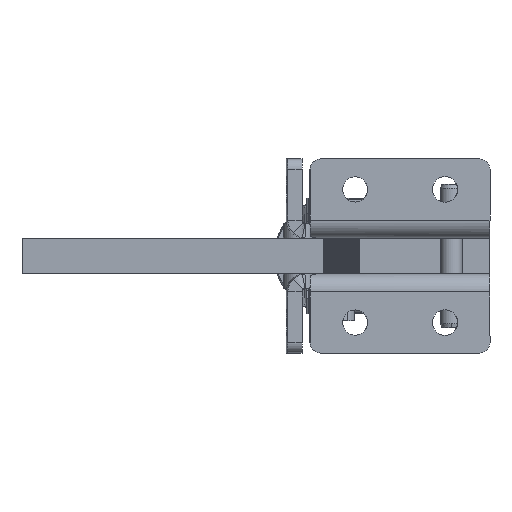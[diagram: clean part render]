
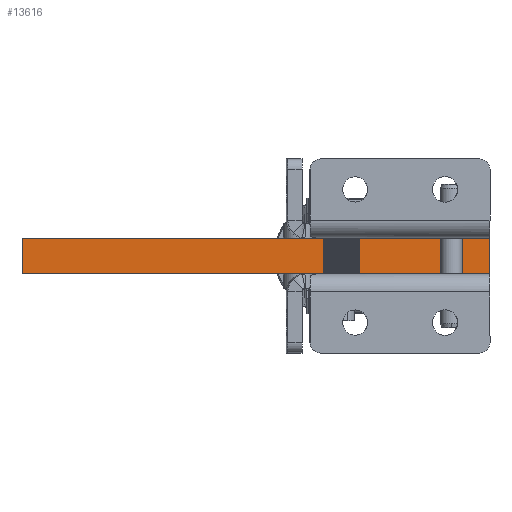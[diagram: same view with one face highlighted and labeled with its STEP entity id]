
A CAD part, front view. The second image highlights one B-rep face of the part: STEP entity #13616.
In plain terms, the highlighted planar face has unit normal (0, -1, 0).
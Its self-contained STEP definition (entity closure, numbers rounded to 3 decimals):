
#392 = DIRECTION ( 'NONE',  ( 1., 0., 0. ) ) ;
#3103 = CARTESIAN_POINT ( 'NONE',  ( 0., 0., 10. ) ) ;
#3331 = DIRECTION ( 'NONE',  ( 0., 1., 0. ) ) ;
#3550 = FACE_OUTER_BOUND ( 'NONE', #38827, .T. ) ;
#5958 = ORIENTED_EDGE ( 'NONE', *, *, #28659, .F. ) ;
#6037 = LINE ( 'NONE', #33652, #21332 ) ;
#6185 = VECTOR ( 'NONE', #6601, 1000. ) ;
#6393 = VERTEX_POINT ( 'NONE', #35391 ) ;
#6601 = DIRECTION ( 'NONE',  ( 1., 0., 0. ) ) ;
#8301 = EDGE_CURVE ( 'NONE', #19359, #36439, #27573, .T. ) ;
#9983 = LINE ( 'NONE', #37352, #6185 ) ;
#11726 = CARTESIAN_POINT ( 'NONE',  ( 130., 0., 0. ) ) ;
#13616 = ADVANCED_FACE ( 'NONE', ( #3550 ), #34095, .F. ) ;
#14126 = DIRECTION ( 'NONE',  ( 0., 0., -1. ) ) ;
#14894 = AXIS2_PLACEMENT_3D ( 'NONE', #3103, #3331, #14126 ) ;
#16623 = ORIENTED_EDGE ( 'NONE', *, *, #8301, .T. ) ;
#16774 = DIRECTION ( 'NONE',  ( 0., 0., -1. ) ) ;
#18999 = CARTESIAN_POINT ( 'NONE',  ( 0., 0., 0. ) ) ;
#19359 = VERTEX_POINT ( 'NONE', #18999 ) ;
#19964 = DIRECTION ( 'NONE',  ( 0., 0., -1. ) ) ;
#21230 = CARTESIAN_POINT ( 'NONE',  ( 130., 0., 10. ) ) ;
#21332 = VECTOR ( 'NONE', #19964, 1000. ) ;
#23520 = LINE ( 'NONE', #37868, #27054 ) ;
#26833 = VERTEX_POINT ( 'NONE', #21230 ) ;
#27054 = VECTOR ( 'NONE', #16774, 1000. ) ;
#27573 = LINE ( 'NONE', #34091, #40196 ) ;
#28659 = EDGE_CURVE ( 'NONE', #26833, #36439, #6037, .T. ) ;
#29373 = EDGE_CURVE ( 'NONE', #6393, #26833, #9983, .T. ) ;
#32396 = ORIENTED_EDGE ( 'NONE', *, *, #29373, .F. ) ;
#33652 = CARTESIAN_POINT ( 'NONE',  ( 130., 0., 10. ) ) ;
#34091 = CARTESIAN_POINT ( 'NONE',  ( 0., 0., 0. ) ) ;
#34095 = PLANE ( 'NONE',  #14894 ) ;
#35391 = CARTESIAN_POINT ( 'NONE',  ( 0., 0., 10. ) ) ;
#35418 = ORIENTED_EDGE ( 'NONE', *, *, #39542, .T. ) ;
#36439 = VERTEX_POINT ( 'NONE', #11726 ) ;
#37352 = CARTESIAN_POINT ( 'NONE',  ( 0., 0., 10. ) ) ;
#37868 = CARTESIAN_POINT ( 'NONE',  ( 0., 0., 10. ) ) ;
#38827 = EDGE_LOOP ( 'NONE', ( #16623, #5958, #32396, #35418 ) ) ;
#39542 = EDGE_CURVE ( 'NONE', #6393, #19359, #23520, .T. ) ;
#40196 = VECTOR ( 'NONE', #392, 1000. ) ;
